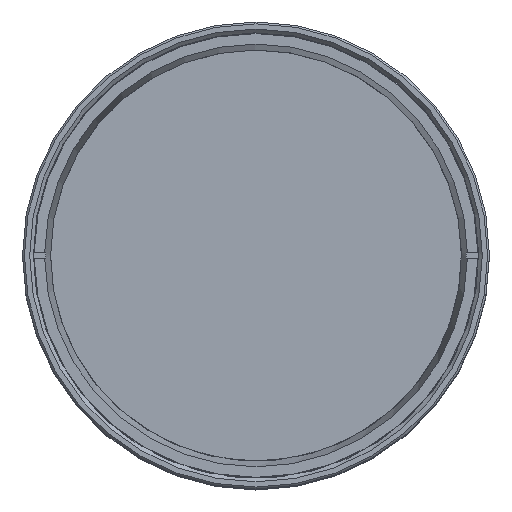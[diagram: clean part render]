
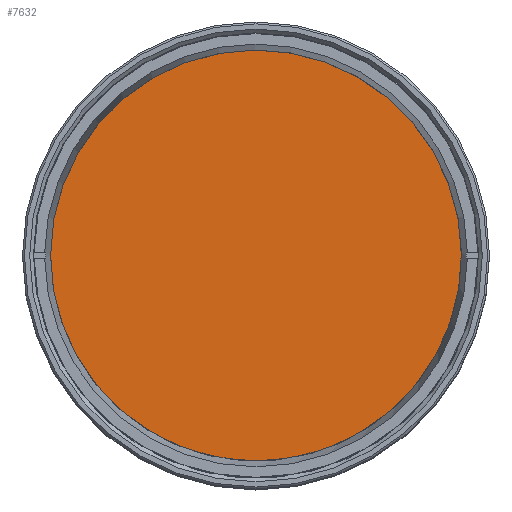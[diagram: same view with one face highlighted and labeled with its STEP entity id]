
A CAD part, top view. The second image highlights one B-rep face of the part: STEP entity #7632.
In plain terms, the highlighted planar face has unit normal (0, 0, 1).
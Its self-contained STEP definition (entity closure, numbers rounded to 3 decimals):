
#1349 = PLANE ( 'NONE',  #11214 ) ;
#1880 = EDGE_LOOP ( 'NONE', ( #13886 ) ) ;
#2983 = DIRECTION ( 'NONE',  ( -1., 0., 0. ) ) ;
#5767 = AXIS2_PLACEMENT_3D ( 'NONE', #6671, #7372, #2983 ) ;
#6671 = CARTESIAN_POINT ( 'NONE',  ( 0., 0., 249.238 ) ) ;
#7372 = DIRECTION ( 'NONE',  ( 0., 0., -1. ) ) ;
#7632 = ADVANCED_FACE ( 'NONE', ( #8188 ), #1349, .F. ) ;
#7714 = EDGE_CURVE ( 'NONE', #15334, #15334, #7896, .T. ) ;
#7896 = CIRCLE ( 'NONE', #5767, 55.1 ) ;
#8188 = FACE_OUTER_BOUND ( 'NONE', #1880, .T. ) ;
#8945 = CARTESIAN_POINT ( 'NONE',  ( 0., 0., 249.238 ) ) ;
#11214 = AXIS2_PLACEMENT_3D ( 'NONE', #8945, #14043, #13015 ) ;
#12507 = CARTESIAN_POINT ( 'NONE',  ( -55.1, 0., 249.238 ) ) ;
#13015 = DIRECTION ( 'NONE',  ( -1., 0., 0. ) ) ;
#13886 = ORIENTED_EDGE ( 'NONE', *, *, #7714, .F. ) ;
#14043 = DIRECTION ( 'NONE',  ( 0., 0., -1. ) ) ;
#15334 = VERTEX_POINT ( 'NONE', #12507 ) ;
